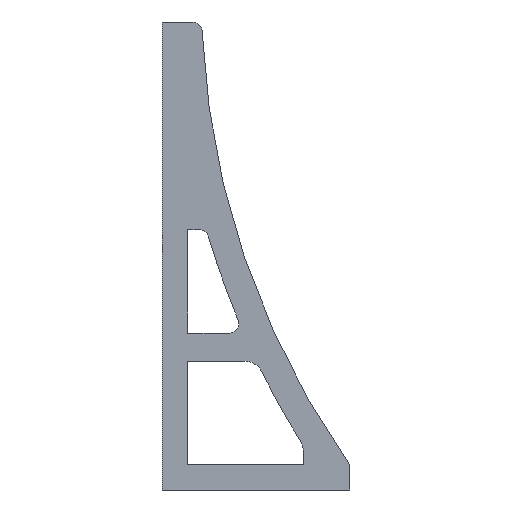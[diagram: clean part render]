
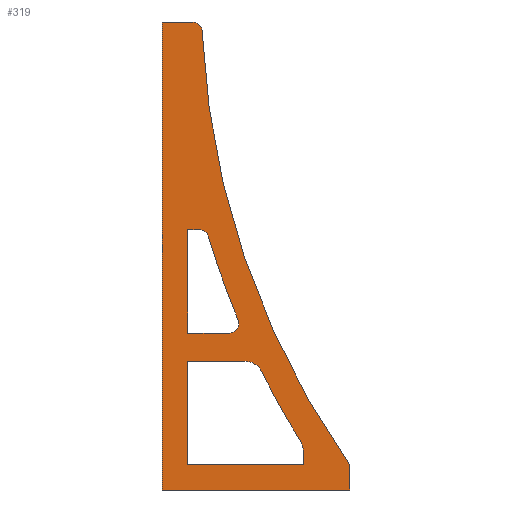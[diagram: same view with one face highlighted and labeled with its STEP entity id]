
A CAD part, front view. The second image highlights one B-rep face of the part: STEP entity #319.
In plain terms, the highlighted planar face has unit normal (0, -1, 0).
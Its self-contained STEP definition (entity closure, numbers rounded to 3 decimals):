
#319=ADVANCED_FACE('',(#690,#691,#692),#693,.T.);
#690=FACE_BOUND('',#1126,.T.);
#691=FACE_BOUND('',#1127,.T.);
#692=FACE_OUTER_BOUND('',#1128,.T.);
#693=PLANE('',#1129);
#1126=EDGE_LOOP('',(#1984,#1985,#1986,#1987,#1988,#1989,#1990));
#1127=EDGE_LOOP('',(#1991,#1992,#1993,#1994,#1995,#1996,#1997));
#1128=EDGE_LOOP('',(#1998,#1999,#2000,#2001,#2002,#2003));
#1129=AXIS2_PLACEMENT_3D('',#2004,#2005,#2006);
#1984=ORIENTED_EDGE('',*,*,#2801,.F.);
#1985=ORIENTED_EDGE('',*,*,#2807,.F.);
#1986=ORIENTED_EDGE('',*,*,#2808,.F.);
#1987=ORIENTED_EDGE('',*,*,#2495,.T.);
#1988=ORIENTED_EDGE('',*,*,#2695,.F.);
#1989=ORIENTED_EDGE('',*,*,#2809,.T.);
#1990=ORIENTED_EDGE('',*,*,#2656,.T.);
#1991=ORIENTED_EDGE('',*,*,#2550,.T.);
#1992=ORIENTED_EDGE('',*,*,#2765,.T.);
#1993=ORIENTED_EDGE('',*,*,#2810,.F.);
#1994=ORIENTED_EDGE('',*,*,#2811,.T.);
#1995=ORIENTED_EDGE('',*,*,#2812,.T.);
#1996=ORIENTED_EDGE('',*,*,#2470,.F.);
#1997=ORIENTED_EDGE('',*,*,#2536,.T.);
#1998=ORIENTED_EDGE('',*,*,#2728,.T.);
#1999=ORIENTED_EDGE('',*,*,#2627,.T.);
#2000=ORIENTED_EDGE('',*,*,#2540,.T.);
#2001=ORIENTED_EDGE('',*,*,#2813,.F.);
#2002=ORIENTED_EDGE('',*,*,#2558,.F.);
#2003=ORIENTED_EDGE('',*,*,#2814,.T.);
#2004=CARTESIAN_POINT('',(-540.0,-145.0,5.0));
#2005=DIRECTION('',(0.0,-1.0,0.0));
#2006=DIRECTION('',(0.0,0.0,-1.0));
#2470=EDGE_CURVE('',#2921,#2923,#2924,.T.);
#2495=EDGE_CURVE('',#2968,#2966,#2969,.T.);
#2536=EDGE_CURVE('',#2921,#3038,#3040,.T.);
#2540=EDGE_CURVE('',#3047,#3045,#3048,.T.);
#2550=EDGE_CURVE('',#3038,#3062,#3064,.T.);
#2558=EDGE_CURVE('',#3075,#3077,#3078,.T.);
#2627=EDGE_CURVE('',#3187,#3047,#3188,.T.);
#2656=EDGE_CURVE('',#3229,#3233,#3235,.T.);
#2695=EDGE_CURVE('',#3283,#2966,#3285,.T.);
#2728=EDGE_CURVE('',#3337,#3187,#3338,.T.);
#2765=EDGE_CURVE('',#3062,#3383,#3385,.T.);
#2801=EDGE_CURVE('',#3428,#3233,#3430,.T.);
#2807=EDGE_CURVE('',#3436,#3428,#3437,.T.);
#2808=EDGE_CURVE('',#2968,#3436,#3438,.T.);
#2809=EDGE_CURVE('',#3283,#3229,#3439,.T.);
#2810=EDGE_CURVE('',#3440,#3383,#3441,.T.);
#2811=EDGE_CURVE('',#3440,#3442,#3443,.T.);
#2812=EDGE_CURVE('',#3442,#2923,#3444,.T.);
#2813=EDGE_CURVE('',#3077,#3045,#3445,.T.);
#2814=EDGE_CURVE('',#3075,#3337,#3446,.T.);
#2921=VERTEX_POINT('',#3566);
#2923=VERTEX_POINT('',#3569);
#2924=CIRCLE('',#3570,904.739);
#2966=VERTEX_POINT('',#3621);
#2968=VERTEX_POINT('',#3624);
#2969=CIRCLE('',#3625,10.0);
#3038=VERTEX_POINT('',#3711);
#3040=CIRCLE('',#3714,20.0);
#3045=VERTEX_POINT('',#3719);
#3047=VERTEX_POINT('',#3722);
#3048=CIRCLE('',#3723,874.739);
#3062=VERTEX_POINT('',#3741);
#3064=LINE('',#3744,#3745);
#3075=VERTEX_POINT('',#3758);
#3077=VERTEX_POINT('',#3761);
#3078=LINE('',#3762,#3763);
#3187=VERTEX_POINT('',#3902);
#3188=LINE('',#3903,#3904);
#3229=VERTEX_POINT('',#3953);
#3233=VERTEX_POINT('',#3958);
#3235=CIRCLE('',#3961,10.0);
#3283=VERTEX_POINT('',#4018);
#3285=CIRCLE('',#4021,904.739);
#3337=VERTEX_POINT('',#4082);
#3338=LINE('',#4083,#4084);
#3383=VERTEX_POINT('',#4143);
#3385=LINE('',#4146,#4147);
#3428=VERTEX_POINT('',#4202);
#3430=LINE('',#4205,#4206);
#3436=VERTEX_POINT('',#4214);
#3437=LINE('',#4215,#4216);
#3438=LINE('',#4217,#4218);
#3439=CIRCLE('',#4219,10.0);
#3440=VERTEX_POINT('',#4220);
#3441=LINE('',#4221,#4222);
#3442=VERTEX_POINT('',#4223);
#3443=LINE('',#4224,#4225);
#3444=CIRCLE('',#4226,20.0);
#3445=CIRCLE('',#4227,10.0);
#3446=LINE('',#4228,#4229);
#3566=CARTESIAN_POINT('',(-392.321,-145.0,56.813));
#3569=CARTESIAN_POINT('',(-433.961,-145.0,131.522));
#3570=AXIS2_PLACEMENT_3D('',#4370,#4371,#4372);
#3621=CARTESIAN_POINT('',(-490.905,-145.0,276.096));
#3624=CARTESIAN_POINT('',(-500.49,-145.0,283.244));
#3625=AXIS2_PLACEMENT_3D('',#4410,#4411,#4412);
#3711=CARTESIAN_POINT('',(-389.311,-145.0,46.261));
#3714=AXIS2_PLACEMENT_3D('',#4473,#4474,#4475);
#3719=CARTESIAN_POINT('',(-497.629,-145.0,495.442));
#3722=CARTESIAN_POINT('',(-340.0,-145.0,32.0));
#3723=AXIS2_PLACEMENT_3D('',#4480,#4481,#4482);
#3741=CARTESIAN_POINT('',(-389.311,-145.0,32.0));
#3744=CARTESIAN_POINT('',(-389.311,-145.0,46.261));
#3745=VECTOR('',#4494,1.0);
#3758=CARTESIAN_POINT('',(-540.0,-145.0,505.0));
#3761=CARTESIAN_POINT('',(-507.619,-145.0,505.0));
#3762=CARTESIAN_POINT('',(-540.0,-145.0,505.0));
#3763=VECTOR('',#4504,1.0);
#3902=CARTESIAN_POINT('',(-340.0,-145.0,5.0));
#3903=CARTESIAN_POINT('',(-340.0,-145.0,5.0));
#3904=VECTOR('',#4604,1.0);
#3953=CARTESIAN_POINT('',(-458.246,-145.0,182.622));
#3958=CARTESIAN_POINT('',(-468.246,-145.0,172.622));
#3961=AXIS2_PLACEMENT_3D('',#4651,#4652,#4653);
#4018=CARTESIAN_POINT('',(-459.014,-145.0,186.465));
#4021=AXIS2_PLACEMENT_3D('',#4715,#4716,#4717);
#4082=CARTESIAN_POINT('',(-540.0,-145.0,5.0));
#4083=CARTESIAN_POINT('',(-540.0,-145.0,5.0));
#4084=VECTOR('',#4772,1.0);
#4143=CARTESIAN_POINT('',(-513.0,-145.0,32.0));
#4146=CARTESIAN_POINT('',(-340.0,-145.0,32.0));
#4147=VECTOR('',#4821,1.0);
#4202=CARTESIAN_POINT('',(-513.0,-145.0,172.622));
#4205=CARTESIAN_POINT('',(-513.0,-145.0,172.622));
#4206=VECTOR('',#4871,1.0);
#4214=CARTESIAN_POINT('',(-513.0,-145.0,283.244));
#4215=CARTESIAN_POINT('',(-513.0,-145.0,505.0));
#4216=VECTOR('',#4874,1.0);
#4217=CARTESIAN_POINT('',(-500.49,-145.0,283.244));
#4218=VECTOR('',#4875,1.0);
#4219=AXIS2_PLACEMENT_3D('',#4876,#4877,#4878);
#4220=CARTESIAN_POINT('',(-513.0,-145.0,142.622));
#4221=CARTESIAN_POINT('',(-513.0,-145.0,505.0));
#4222=VECTOR('',#4879,1.0);
#4223=CARTESIAN_POINT('',(-451.872,-145.0,142.622));
#4224=CARTESIAN_POINT('',(-513.0,-145.0,142.622));
#4225=VECTOR('',#4880,1.0);
#4226=AXIS2_PLACEMENT_3D('',#4881,#4882,#4883);
#4227=AXIS2_PLACEMENT_3D('',#4884,#4885,#4886);
#4228=CARTESIAN_POINT('',(-540.0,-145.0,505.0));
#4229=VECTOR('',#4887,1.0);
#4370=CARTESIAN_POINT('',(376.254,-145.0,534.145));
#4371=DIRECTION('',(0.0,1.0,0.0));
#4372=DIRECTION('',(-1.0,0.0,0.0));
#4410=CARTESIAN_POINT('',(-500.49,-145.0,273.244));
#4411=DIRECTION('',(0.0,1.0,0.0));
#4412=DIRECTION('',(-1.0,0.0,0.0));
#4473=CARTESIAN_POINT('',(-409.311,-145.0,46.261));
#4474=DIRECTION('',(0.0,1.0,0.0));
#4475=DIRECTION('',(-1.0,0.0,0.0));
#4480=CARTESIAN_POINT('',(376.254,-145.0,534.145));
#4481=DIRECTION('',(0.0,1.0,0.0));
#4482=DIRECTION('',(-1.0,0.0,0.0));
#4494=DIRECTION('',(0.,0.0,-1.0));
#4504=DIRECTION('',(1.0,0.0,0.0));
#4604=DIRECTION('',(0.0,0.0,1.0));
#4651=CARTESIAN_POINT('',(-468.246,-145.0,182.622));
#4652=DIRECTION('',(0.0,1.0,0.0));
#4653=DIRECTION('',(-1.0,0.0,0.0));
#4715=CARTESIAN_POINT('',(376.254,-145.0,534.145));
#4716=DIRECTION('',(0.0,1.0,0.0));
#4717=DIRECTION('',(-1.0,0.0,0.0));
#4772=DIRECTION('',(1.0,0.0,0.0));
#4821=DIRECTION('',(-1.0,0.0,0.0));
#4871=DIRECTION('',(1.0,0.0,0.0));
#4874=DIRECTION('',(0.0,0.0,-1.0));
#4875=DIRECTION('',(-1.0,0.0,0.0));
#4876=CARTESIAN_POINT('',(-468.246,-145.0,182.622));
#4877=DIRECTION('',(0.0,1.0,0.0));
#4878=DIRECTION('',(-1.0,0.0,0.0));
#4879=DIRECTION('',(0.0,0.0,-1.0));
#4880=DIRECTION('',(1.0,0.0,0.0));
#4881=CARTESIAN_POINT('',(-451.872,-145.0,122.622));
#4882=DIRECTION('',(0.0,1.0,0.0));
#4883=DIRECTION('',(-1.0,0.0,0.0));
#4884=CARTESIAN_POINT('',(-507.619,-145.0,495.0));
#4885=DIRECTION('',(0.0,1.0,0.0));
#4886=DIRECTION('',(-1.0,0.0,0.0));
#4887=DIRECTION('',(0.0,0.0,-1.0));
